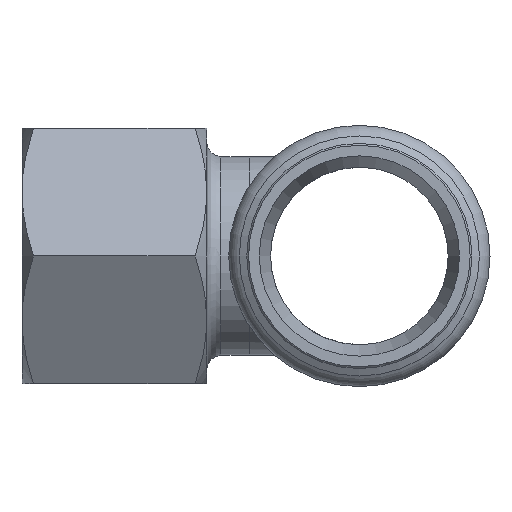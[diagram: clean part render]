
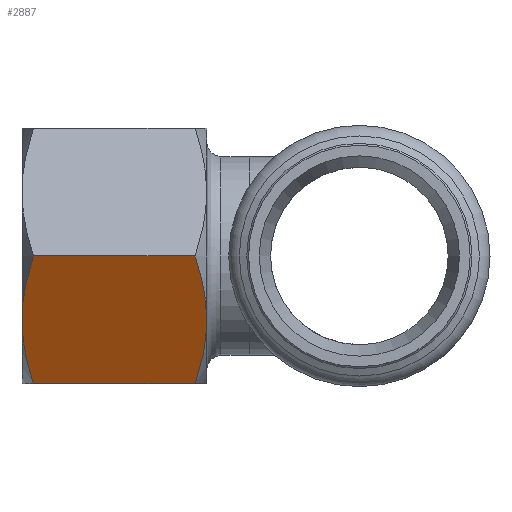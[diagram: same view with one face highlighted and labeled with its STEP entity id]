
A CAD part, left-side view. The second image highlights one B-rep face of the part: STEP entity #2887.
In plain terms, the highlighted planar face has unit normal (-0.866, 0, -0.5) as drawn and (0.866, 0.5, 0) by its records, which use the part's own axes.
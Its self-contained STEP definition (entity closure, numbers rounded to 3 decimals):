
#2081=CARTESIAN_POINT('',(20.785,0.,-30.392));
#2082=VERTEX_POINT('',#2081);
#2083=CARTESIAN_POINT('',(15.588,9.,-32.0));
#2084=VERTEX_POINT('',#2083);
#2085=CARTESIAN_POINT('',(20.785,0.,-30.392));
#2086=CARTESIAN_POINT('',(18.,4.823,-32.0));
#2087=CARTESIAN_POINT('',(15.588,9.,-32.0));
#2095=(BOUNDED_CURVE()B_SPLINE_CURVE(2,(#2085,#2086,#2087),.UNSPECIFIED.,.F.,.U.)B_SPLINE_CURVE_WITH_KNOTS((3,3),(1.204,2.451),.UNSPECIFIED.)CURVE()GEOMETRIC_REPRESENTATION_ITEM()RATIONAL_B_SPLINE_CURVE((1.075,1.076,1.0))REPRESENTATION_ITEM(''));
#2096=EDGE_CURVE('',#2082,#2084,#2095,.T.);
#2126=CARTESIAN_POINT('',(10.392,18.,-30.392));
#2127=VERTEX_POINT('',#2126);
#2143=CARTESIAN_POINT('',(15.588,9.,-32.0));
#2144=CARTESIAN_POINT('',(13.177,13.177,-32.0));
#2145=CARTESIAN_POINT('',(10.392,18.,-30.392));
#2153=(BOUNDED_CURVE()B_SPLINE_CURVE(2,(#2143,#2144,#2145),.UNSPECIFIED.,.F.,.U.)B_SPLINE_CURVE_WITH_KNOTS((3,3),(2.451,3.699),.UNSPECIFIED.)CURVE()GEOMETRIC_REPRESENTATION_ITEM()RATIONAL_B_SPLINE_CURVE((1.0,1.076,1.075))REPRESENTATION_ITEM(''));
#2154=EDGE_CURVE('',#2084,#2127,#2153,.T.);
#2304=CARTESIAN_POINT('',(10.392,18.,-7.608));
#2305=VERTEX_POINT('',#2304);
#2306=CARTESIAN_POINT('',(15.588,9.,-6.));
#2307=VERTEX_POINT('',#2306);
#2308=CARTESIAN_POINT('',(10.392,18.,-7.608));
#2309=CARTESIAN_POINT('',(13.177,13.177,-6.));
#2310=CARTESIAN_POINT('',(15.588,9.,-6.));
#2318=(BOUNDED_CURVE()B_SPLINE_CURVE(2,(#2308,#2309,#2310),.UNSPECIFIED.,.F.,.U.)B_SPLINE_CURVE_WITH_KNOTS((3,3),(1.204,2.451),.UNSPECIFIED.)CURVE()GEOMETRIC_REPRESENTATION_ITEM()RATIONAL_B_SPLINE_CURVE((1.075,1.076,1.0))REPRESENTATION_ITEM(''));
#2319=EDGE_CURVE('',#2305,#2307,#2318,.T.);
#2351=CARTESIAN_POINT('',(20.785,0.,-7.608));
#2352=VERTEX_POINT('',#2351);
#2368=CARTESIAN_POINT('',(15.588,9.,-6.));
#2369=CARTESIAN_POINT('',(18.,4.823,-6.));
#2370=CARTESIAN_POINT('',(20.785,0.,-7.608));
#2378=(BOUNDED_CURVE()B_SPLINE_CURVE(2,(#2368,#2369,#2370),.UNSPECIFIED.,.F.,.U.)B_SPLINE_CURVE_WITH_KNOTS((3,3),(2.451,3.699),.UNSPECIFIED.)CURVE()GEOMETRIC_REPRESENTATION_ITEM()RATIONAL_B_SPLINE_CURVE((1.0,1.076,1.075))REPRESENTATION_ITEM(''));
#2379=EDGE_CURVE('',#2307,#2352,#2378,.T.);
#2859=CARTESIAN_POINT('',(10.392,18.,-7.608));
#2860=DIRECTION('',(0.0,0.0,-1.0));
#2861=VECTOR('',#2860,22.785);
#2862=LINE('',#2859,#2861);
#2863=EDGE_CURVE('',#2305,#2127,#2862,.T.);
#2869=CARTESIAN_POINT('',(20.785,0.,0.0));
#2870=DIRECTION('',(0.866,0.5,0.0));
#2871=DIRECTION('',(0.0,0.0,-1.0));
#2872=AXIS2_PLACEMENT_3D('',#2869,#2870,#2871);
#2873=PLANE('',#2872);
#2874=ORIENTED_EDGE('',*,*,#2154,.T.);
#2875=ORIENTED_EDGE('',*,*,#2863,.F.);
#2876=ORIENTED_EDGE('',*,*,#2319,.T.);
#2877=ORIENTED_EDGE('',*,*,#2379,.T.);
#2878=CARTESIAN_POINT('',(20.785,0.,-7.608));
#2879=DIRECTION('',(0.0,0.0,-1.0));
#2880=VECTOR('',#2879,22.785);
#2881=LINE('',#2878,#2880);
#2882=EDGE_CURVE('',#2352,#2082,#2881,.T.);
#2883=ORIENTED_EDGE('',*,*,#2882,.T.);
#2884=ORIENTED_EDGE('',*,*,#2096,.T.);
#2885=EDGE_LOOP('',(#2874,#2875,#2876,#2877,#2883,#2884));
#2886=FACE_OUTER_BOUND('',#2885,.T.);
#2887=ADVANCED_FACE('',(#2886),#2873,.T.);
